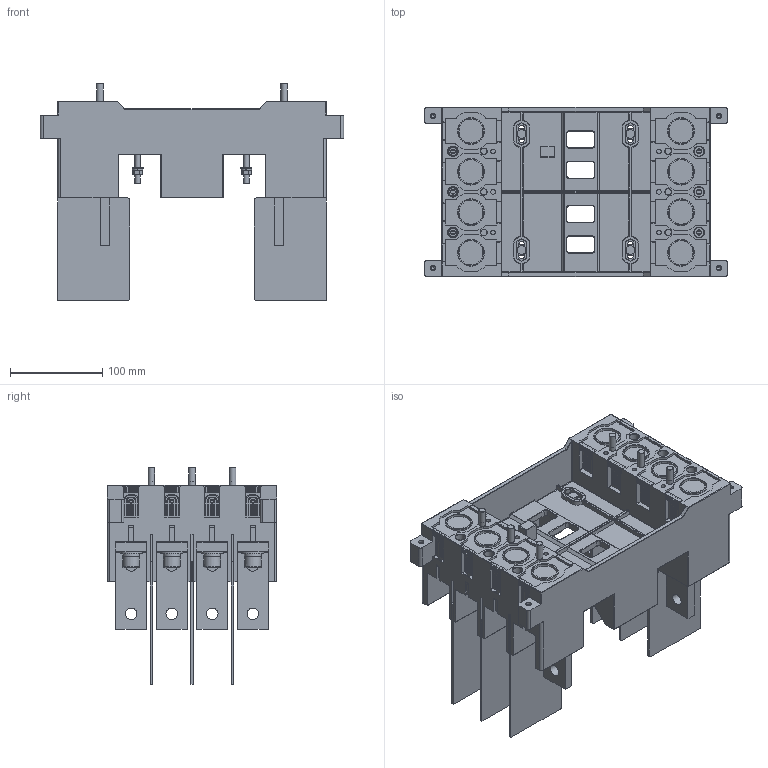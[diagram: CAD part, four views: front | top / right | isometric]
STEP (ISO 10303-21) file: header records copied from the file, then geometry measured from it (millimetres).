
FILE_DESCRIPTION(/* description */ (''),/* implementation_level */ '2;1');
FILE_NAME(/* name */ 'FCR1-CM5-630S-1.stp',/* time_stamp */ '2023-03-24T15:13:23+08:00',/* author */ (''),/* organization */ (''),/* preprocessor_version */ 'ST-DEVELOPER v16.7',/* originating_system */ 'SIEMENS PLM Software NX 12.0',/* authorisation */ '');
FILE_SCHEMA (('AUTOMOTIVE_DESIGN { 1 0 10303 214 3 1 1 1 }'));
Products named in the file (1): _model1
Bounding box: 329 x 184 x 235 mm (x, y, z)
Volume: 2493380.3 mm3; surface area: 619672 mm2
Topology: 7 solids, 25 shells, 3487 faces, 9295 edges, 5968 vertices
Faces by surface type: plane 2228, cylinder 967, cone 154, torus 90, sphere 36, bspline 12
Full cylindrical faces by diameter (mm): 4.351 x4, 4.5 x6, 5 x15, 5.5 x6, 6 x12, 6.4 x4, 7.2 x6, 8.75 x3, 10 x3, 10.5 x6, 12 x12, 12.5 x24, 13 x8, 18 x8, 20 x8, 24 x8, 26 x8, 29 x8
Entity records: 106368 total; most frequent: CARTESIAN_POINT 19882, ORIENTED_EDGE 17876, DIRECTION 17722, EDGE_CURVE 8938, LINE 6490, VECTOR 6490, VERTEX_POINT 5862, AXIS2_PLACEMENT_3D 5616
